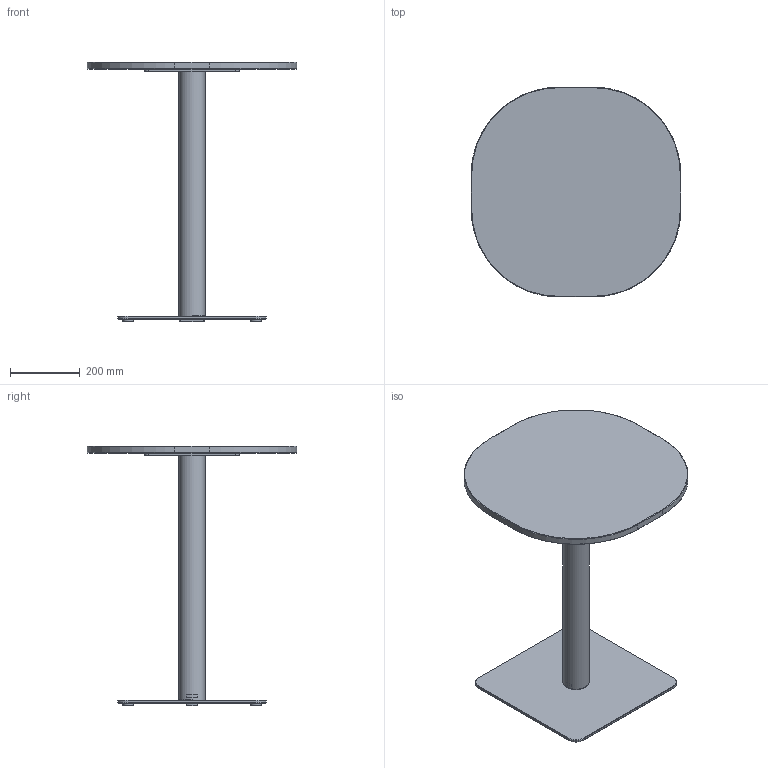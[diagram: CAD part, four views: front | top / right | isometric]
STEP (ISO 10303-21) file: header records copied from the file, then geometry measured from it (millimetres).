
FILE_DESCRIPTION( ('This file contains a STEP AP42 implementation' ,'as created by ZW3D STEP Interface translator.') ,'2;1' );
FILE_NAME( 'Henri - B_Carré - F2 - M1 - 600 x 600 x 750.stp' ,'24 912.163222', (''), ('ZWCAD Software Co.'), 'Version 1.0', 'ZW3D to STEP translator', '' );
FILE_SCHEMA(('AUTOMOTIVE_DESIGN { 1 0 10303 214 1 1 1 1 }'));
Length unit declared in the file: millimetre
Products named in the file (14): 0; PIED BISTROT PARAMETRIQUE_; COLONNE ACIER Ø76 V.02_; TUB-D076-02_; PLA-R76B-01_; CROIX ACIER 370 V.02_; CRX-X370-02_; SOCLE ACIER L 425x425 V.02_; SCL-R425-02_; PLA-R30A-01_; PLA-R30A-01; WUERTH 0276063020 Euro-screw 6.3x2 Verzinkt_; PLATEAU BISTROT PARAMETRIQUE_; insert_m6_13_
Assembly tree (22 placements, depth 3):
  0
  PIED BISTROT PARAMETRIQUE_
    COLONNE ACIER Ø76 V.02_
      TUB-D076-02_
      PLA-R76B-01_  x2
    CROIX ACIER 370 V.02_
      CRX-X370-02_
    SOCLE ACIER L 425x425 V.02_
      SCL-R425-02_
      PLA-R30A-01_
      PLA-R30A-01  x3
    WUERTH 0276063020 Euro-screw 6.3x2 Verzinkt_
    PLATEAU BISTROT PARAMETRIQUE_
      insert_m6_13_  x8
Bounding box: 600 x 600 x 744 mm (x, y, z)
Volume: 8500350 mm3; surface area: 1541929.8 mm2
Topology: 19 solids, 19 shells, 537 faces, 1310 edges, 822 vertices
Faces by surface type: plane 256, bspline 127, cylinder 98, cone 55, torus 1
Full cylindrical faces by diameter (mm): 4.88 x1, 6 x8, 6.3 x1, 8 x45, 12 x2, 14 x2, 30 x4, 72 x1, 76 x1
Entity records: 12396 total; most frequent: CARTESIAN_POINT 3544, ORIENTED_EDGE 1624, DIRECTION 1485, EDGE_CURVE 812, VERTEX_POINT 518, VECTOR 507, LINE 507, AXIS2_PLACEMENT_3D 489
